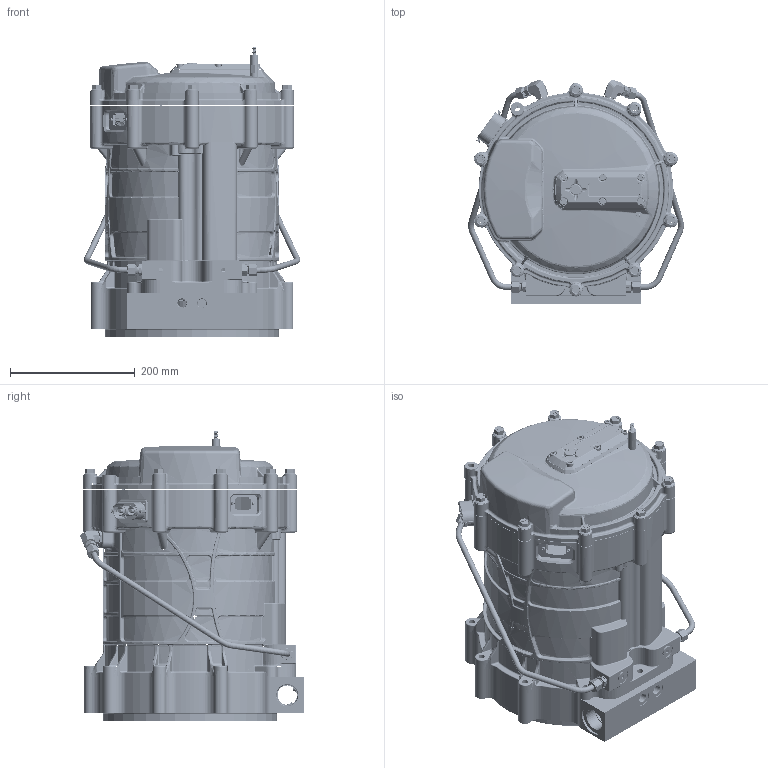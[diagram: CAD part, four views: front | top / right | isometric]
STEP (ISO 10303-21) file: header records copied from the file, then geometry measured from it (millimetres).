
FILE_DESCRIPTION (( 'STEP AP214' ), '1' );
FILE_NAME ('F3 HYDRAPULSE 30 kw.STEP', '2022-10-19T17:16:35', ( '' ), ( '' ), 'SwSTEP 2.0', 'SolidWorks 2019', '' );
FILE_SCHEMA (( 'AUTOMOTIVE_DESIGN' ));
Length unit declared in the file: inch
Products named in the file (1): F3 HYDRAPULSE 30 kw
Bounding box: 345.7 x 358.17 x 464.1 mm (x, y, z)
Surface area: 1068186.1 mm2 (no closed solid volume)
Topology: 0 solids, 164 shells, 4916 faces, 15432 edges, 10242 vertices
Faces by surface type: cylinder 1575, bspline 1023, plane 905, torus 882, cone 497, sphere 34
Entity records: 316932 total; most frequent: CARTESIAN_POINT 126618, ORIENTED_EDGE 25639, DIRECTION 25464, EDGE_CURVE 15312, AXIS2_PLACEMENT_3D 10816, VERTEX_POINT 10242, CIRCLE 6922, EDGE_LOOP 5533
